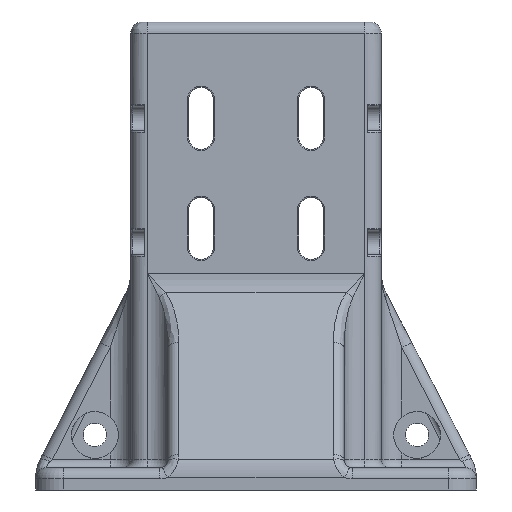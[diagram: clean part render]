
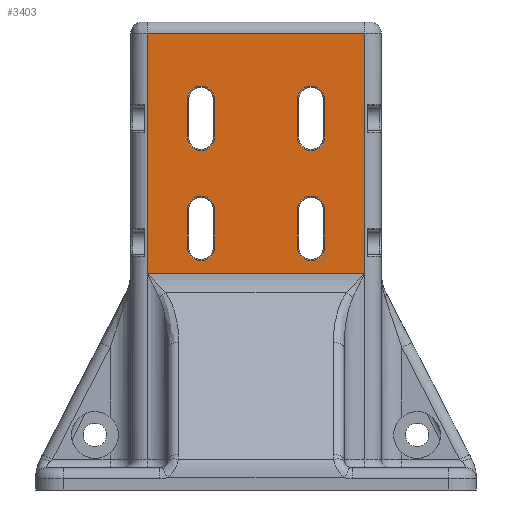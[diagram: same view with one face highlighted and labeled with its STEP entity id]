
A CAD part, front view. The second image highlights one B-rep face of the part: STEP entity #3403.
In plain terms, the highlighted planar face has unit normal (0, -1, 0) as drawn and (0, 1, 0) by its records, which use the part's own axes.
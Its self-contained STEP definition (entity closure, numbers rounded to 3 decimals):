
#43=FACE_BOUND('',#1022,.T.);
#44=FACE_BOUND('',#1023,.T.);
#45=FACE_BOUND('',#1024,.T.);
#46=FACE_BOUND('',#1025,.T.);
#90=PLANE('',#3752);
#236=LINE('',#5863,#485);
#284=LINE('',#6290,#533);
#285=LINE('',#6291,#534);
#286=LINE('',#6292,#535);
#287=LINE('',#6294,#536);
#288=LINE('',#6297,#537);
#289=LINE('',#6299,#538);
#290=LINE('',#6302,#539);
#291=LINE('',#6304,#540);
#292=LINE('',#6307,#541);
#293=LINE('',#6309,#542);
#294=LINE('',#6312,#543);
#485=VECTOR('',#4326,1000.);
#533=VECTOR('',#4448,1000.);
#534=VECTOR('',#4449,1000.);
#535=VECTOR('',#4450,1000.);
#536=VECTOR('',#4451,1000.);
#537=VECTOR('',#4454,1000.);
#538=VECTOR('',#4455,1000.);
#539=VECTOR('',#4458,1000.);
#540=VECTOR('',#4459,1000.);
#541=VECTOR('',#4462,1000.);
#542=VECTOR('',#4463,1000.);
#543=VECTOR('',#4466,1000.);
#811=FACE_OUTER_BOUND('',#1021,.T.);
#1021=EDGE_LOOP('',(#2538,#2539,#2540,#2541));
#1022=EDGE_LOOP('',(#2542,#2543,#2544,#2545));
#1023=EDGE_LOOP('',(#2546,#2547,#2548,#2549));
#1024=EDGE_LOOP('',(#2550,#2551,#2552,#2553));
#1025=EDGE_LOOP('',(#2554,#2555,#2556,#2557));
#1206=CIRCLE('',#3604,5.);
#1210=CIRCLE('',#3609,5.);
#1252=CIRCLE('',#3665,5.);
#1256=CIRCLE('',#3670,5.);
#1301=CIRCLE('',#3753,5.);
#1302=CIRCLE('',#3754,5.);
#1303=CIRCLE('',#3755,5.);
#1304=CIRCLE('',#3756,5.);
#1436=VERTEX_POINT('',#5159);
#1437=VERTEX_POINT('',#5161);
#1440=VERTEX_POINT('',#5168);
#1441=VERTEX_POINT('',#5170);
#1492=VERTEX_POINT('',#5357);
#1493=VERTEX_POINT('',#5359);
#1496=VERTEX_POINT('',#5366);
#1497=VERTEX_POINT('',#5368);
#1565=VERTEX_POINT('',#5861);
#1566=VERTEX_POINT('',#5862);
#1635=VERTEX_POINT('',#6288);
#1636=VERTEX_POINT('',#6289);
#1637=VERTEX_POINT('',#6293);
#1638=VERTEX_POINT('',#6295);
#1639=VERTEX_POINT('',#6298);
#1640=VERTEX_POINT('',#6300);
#1641=VERTEX_POINT('',#6303);
#1642=VERTEX_POINT('',#6305);
#1643=VERTEX_POINT('',#6308);
#1644=VERTEX_POINT('',#6310);
#1747=EDGE_CURVE('',#1437,#1436,#1206,.T.);
#1751=EDGE_CURVE('',#1441,#1440,#1210,.T.);
#1809=EDGE_CURVE('',#1493,#1492,#1252,.T.);
#1813=EDGE_CURVE('',#1497,#1496,#1256,.T.);
#1894=EDGE_CURVE('',#1565,#1566,#236,.T.);
#1974=EDGE_CURVE('',#1635,#1636,#284,.T.);
#1975=EDGE_CURVE('',#1635,#1565,#285,.T.);
#1976=EDGE_CURVE('',#1566,#1636,#286,.T.);
#1977=EDGE_CURVE('',#1440,#1637,#287,.T.);
#1978=EDGE_CURVE('',#1637,#1638,#1301,.T.);
#1979=EDGE_CURVE('',#1638,#1441,#288,.T.);
#1980=EDGE_CURVE('',#1436,#1639,#289,.T.);
#1981=EDGE_CURVE('',#1639,#1640,#1302,.T.);
#1982=EDGE_CURVE('',#1640,#1437,#290,.T.);
#1983=EDGE_CURVE('',#1496,#1641,#291,.T.);
#1984=EDGE_CURVE('',#1641,#1642,#1303,.T.);
#1985=EDGE_CURVE('',#1642,#1497,#292,.T.);
#1986=EDGE_CURVE('',#1492,#1643,#293,.T.);
#1987=EDGE_CURVE('',#1643,#1644,#1304,.T.);
#1988=EDGE_CURVE('',#1644,#1493,#294,.T.);
#2538=ORIENTED_EDGE('',*,*,#1974,.F.);
#2539=ORIENTED_EDGE('',*,*,#1975,.T.);
#2540=ORIENTED_EDGE('',*,*,#1894,.T.);
#2541=ORIENTED_EDGE('',*,*,#1976,.T.);
#2542=ORIENTED_EDGE('',*,*,#1977,.T.);
#2543=ORIENTED_EDGE('',*,*,#1978,.T.);
#2544=ORIENTED_EDGE('',*,*,#1979,.T.);
#2545=ORIENTED_EDGE('',*,*,#1751,.T.);
#2546=ORIENTED_EDGE('',*,*,#1980,.T.);
#2547=ORIENTED_EDGE('',*,*,#1981,.T.);
#2548=ORIENTED_EDGE('',*,*,#1982,.T.);
#2549=ORIENTED_EDGE('',*,*,#1747,.T.);
#2550=ORIENTED_EDGE('',*,*,#1983,.T.);
#2551=ORIENTED_EDGE('',*,*,#1984,.T.);
#2552=ORIENTED_EDGE('',*,*,#1985,.T.);
#2553=ORIENTED_EDGE('',*,*,#1813,.T.);
#2554=ORIENTED_EDGE('',*,*,#1986,.T.);
#2555=ORIENTED_EDGE('',*,*,#1987,.T.);
#2556=ORIENTED_EDGE('',*,*,#1988,.T.);
#2557=ORIENTED_EDGE('',*,*,#1809,.T.);
#3403=ADVANCED_FACE('',(#811,#43,#44,#45,#46),#90,.F.);
#3604=AXIS2_PLACEMENT_3D('',#5162,#4044,#4045);
#3609=AXIS2_PLACEMENT_3D('',#5171,#4054,#4055);
#3665=AXIS2_PLACEMENT_3D('',#5360,#4178,#4179);
#3670=AXIS2_PLACEMENT_3D('',#5369,#4188,#4189);
#3752=AXIS2_PLACEMENT_3D('',#6287,#4446,#4447);
#3753=AXIS2_PLACEMENT_3D('',#6296,#4452,#4453);
#3754=AXIS2_PLACEMENT_3D('',#6301,#4456,#4457);
#3755=AXIS2_PLACEMENT_3D('',#6306,#4460,#4461);
#3756=AXIS2_PLACEMENT_3D('',#6311,#4464,#4465);
#4044=DIRECTION('center_axis',(0.,-1.,0.));
#4045=DIRECTION('ref_axis',(0.,0.,-1.));
#4054=DIRECTION('center_axis',(0.,-1.,0.));
#4055=DIRECTION('ref_axis',(0.,0.,-1.));
#4178=DIRECTION('center_axis',(0.,-1.,0.));
#4179=DIRECTION('ref_axis',(0.,0.,-1.));
#4188=DIRECTION('center_axis',(0.,-1.,0.));
#4189=DIRECTION('ref_axis',(0.,0.,-1.));
#4326=DIRECTION('',(0.,0.,-1.));
#4446=DIRECTION('center_axis',(0.,-1.,0.));
#4447=DIRECTION('ref_axis',(0.,0.,-1.));
#4448=DIRECTION('',(0.,0.,-1.));
#4449=DIRECTION('',(1.,0.,0.));
#4450=DIRECTION('',(-1.,0.,0.));
#4451=DIRECTION('',(0.,0.,1.));
#4452=DIRECTION('center_axis',(0.,-1.,0.));
#4453=DIRECTION('ref_axis',(0.,0.,-1.));
#4454=DIRECTION('',(0.,0.,-1.));
#4455=DIRECTION('',(0.,0.,1.));
#4456=DIRECTION('center_axis',(0.,-1.,0.));
#4457=DIRECTION('ref_axis',(0.,0.,-1.));
#4458=DIRECTION('',(0.,0.,-1.));
#4459=DIRECTION('',(0.,0.,1.));
#4460=DIRECTION('center_axis',(0.,-1.,0.));
#4461=DIRECTION('ref_axis',(0.,0.,-1.));
#4462=DIRECTION('',(0.,0.,-1.));
#4463=DIRECTION('',(0.,0.,1.));
#4464=DIRECTION('center_axis',(0.,-1.,0.));
#4465=DIRECTION('ref_axis',(0.,0.,-1.));
#4466=DIRECTION('',(0.,0.,-1.));
#5159=CARTESIAN_POINT('',(25.,44.,88.25));
#5161=CARTESIAN_POINT('',(15.,44.,88.25));
#5162=CARTESIAN_POINT('Origin',(20.,44.,88.25));
#5168=CARTESIAN_POINT('',(-15.,44.,88.25));
#5170=CARTESIAN_POINT('',(-25.,44.,88.25));
#5171=CARTESIAN_POINT('Origin',(-20.,44.,88.25));
#5357=CARTESIAN_POINT('',(25.,44.,128.25));
#5359=CARTESIAN_POINT('',(15.,44.,128.25));
#5360=CARTESIAN_POINT('Origin',(20.,44.,128.25));
#5366=CARTESIAN_POINT('',(-15.,44.,128.25));
#5368=CARTESIAN_POINT('',(-25.,44.,128.25));
#5369=CARTESIAN_POINT('Origin',(-20.,44.,128.25));
#5861=CARTESIAN_POINT('',(39.5,44.,166.));
#5862=CARTESIAN_POINT('',(39.5,44.,78.635));
#5863=CARTESIAN_POINT('',(39.5,44.,170.));
#6287=CARTESIAN_POINT('Origin',(-45.5,44.,170.));
#6288=CARTESIAN_POINT('',(-39.5,44.,166.));
#6289=CARTESIAN_POINT('',(-39.5,44.,78.635));
#6290=CARTESIAN_POINT('',(-39.5,44.,170.));
#6291=CARTESIAN_POINT('',(-45.5,44.,166.));
#6292=CARTESIAN_POINT('',(-39.5,44.,78.635));
#6293=CARTESIAN_POINT('',(-15.,44.,101.75));
#6294=CARTESIAN_POINT('',(-15.,44.,170.));
#6295=CARTESIAN_POINT('',(-25.,44.,101.75));
#6296=CARTESIAN_POINT('Origin',(-20.,44.,101.75));
#6297=CARTESIAN_POINT('',(-25.,44.,170.));
#6298=CARTESIAN_POINT('',(25.,44.,101.75));
#6299=CARTESIAN_POINT('',(25.,44.,170.));
#6300=CARTESIAN_POINT('',(15.,44.,101.75));
#6301=CARTESIAN_POINT('Origin',(20.,44.,101.75));
#6302=CARTESIAN_POINT('',(15.,44.,170.));
#6303=CARTESIAN_POINT('',(-15.,44.,141.75));
#6304=CARTESIAN_POINT('',(-15.,44.,170.));
#6305=CARTESIAN_POINT('',(-25.,44.,141.75));
#6306=CARTESIAN_POINT('Origin',(-20.,44.,141.75));
#6307=CARTESIAN_POINT('',(-25.,44.,170.));
#6308=CARTESIAN_POINT('',(25.,44.,141.75));
#6309=CARTESIAN_POINT('',(25.,44.,170.));
#6310=CARTESIAN_POINT('',(15.,44.,141.75));
#6311=CARTESIAN_POINT('Origin',(20.,44.,141.75));
#6312=CARTESIAN_POINT('',(15.,44.,170.));
